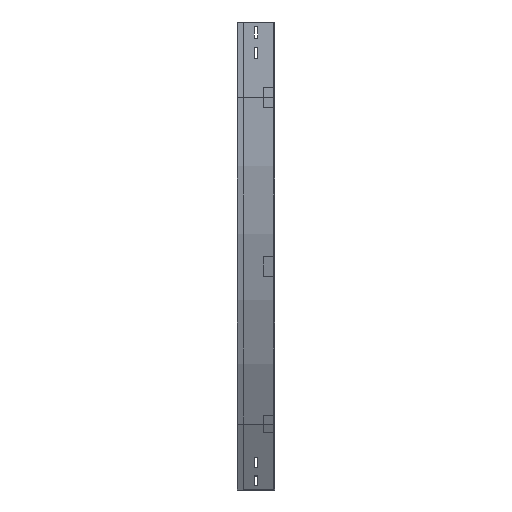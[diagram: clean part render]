
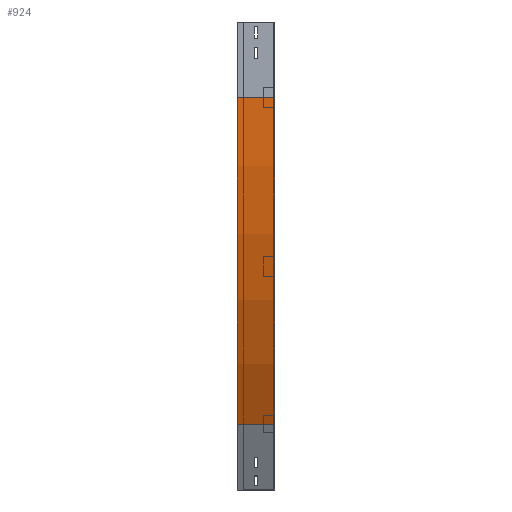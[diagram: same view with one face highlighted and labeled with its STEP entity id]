
A CAD part, left-side view. The second image highlights one B-rep face of the part: STEP entity #924.
In plain terms, the highlighted cylindrical face has radius 1300 mm (diameter 2600 mm), a partial arc.
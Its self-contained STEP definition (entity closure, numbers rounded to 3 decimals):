
#180 = ORIENTED_EDGE ( 'NONE', *, *, #2708, .T. ) ;
#251 = EDGE_CURVE ( 'NONE', #1932, #1748, #3763, .T. ) ;
#252 = FACE_OUTER_BOUND ( 'NONE', #1153, .T. ) ;
#330 = EDGE_CURVE ( 'NONE', #3293, #3305, #1732, .T. ) ;
#470 = VECTOR ( 'NONE', #2242, 1000. ) ;
#537 = CARTESIAN_POINT ( 'NONE',  ( 0., 75., -150. ) ) ;
#644 = CARTESIAN_POINT ( 'NONE',  ( 174.167, 0., -800. ) ) ;
#924 = ADVANCED_FACE ( 'NONE', ( #252 ), #1482, .T. ) ;
#1061 = CARTESIAN_POINT ( 'NONE',  ( 0., 0., -150. ) ) ;
#1114 = CARTESIAN_POINT ( 'NONE',  ( 1300., 0., -150. ) ) ;
#1153 = EDGE_LOOP ( 'NONE', ( #1860, #2943, #180, #3268 ) ) ;
#1436 = DIRECTION ( 'NONE',  ( 0., 0., -1. ) ) ;
#1449 = DIRECTION ( 'NONE',  ( 0., -1., 0. ) ) ;
#1469 = AXIS2_PLACEMENT_3D ( 'NONE', #1114, #3540, #1436 ) ;
#1482 = CYLINDRICAL_SURFACE ( 'NONE', #1469, 1300. ) ;
#1485 = CARTESIAN_POINT ( 'NONE',  ( 174.167, 0., -800. ) ) ;
#1732 = LINE ( 'NONE', #1485, #2709 ) ;
#1748 = VERTEX_POINT ( 'NONE', #2984 ) ;
#1860 = ORIENTED_EDGE ( 'NONE', *, *, #2869, .F. ) ;
#1874 = DIRECTION ( 'NONE',  ( -1., 0., 0. ) ) ;
#1932 = VERTEX_POINT ( 'NONE', #537 ) ;
#2001 = AXIS2_PLACEMENT_3D ( 'NONE', #2944, #1449, #2643 ) ;
#2099 = CARTESIAN_POINT ( 'NONE',  ( 174.167, 75., -800. ) ) ;
#2133 = AXIS2_PLACEMENT_3D ( 'NONE', #3355, #3068, #1874 ) ;
#2242 = DIRECTION ( 'NONE',  ( 0., -1., 0. ) ) ;
#2372 = DIRECTION ( 'NONE',  ( 0., -1., 0. ) ) ;
#2643 = DIRECTION ( 'NONE',  ( -1., 0., 0. ) ) ;
#2708 = EDGE_CURVE ( 'NONE', #1932, #3293, #3630, .T. ) ;
#2709 = VECTOR ( 'NONE', #2372, 1000. ) ;
#2869 = EDGE_CURVE ( 'NONE', #1748, #3305, #3695, .T. ) ;
#2943 = ORIENTED_EDGE ( 'NONE', *, *, #251, .F. ) ;
#2944 = CARTESIAN_POINT ( 'NONE',  ( 1300., 0., -150. ) ) ;
#2984 = CARTESIAN_POINT ( 'NONE',  ( 0., 0., -150. ) ) ;
#3068 = DIRECTION ( 'NONE',  ( 0., -1., 0. ) ) ;
#3268 = ORIENTED_EDGE ( 'NONE', *, *, #330, .T. ) ;
#3293 = VERTEX_POINT ( 'NONE', #2099 ) ;
#3305 = VERTEX_POINT ( 'NONE', #644 ) ;
#3355 = CARTESIAN_POINT ( 'NONE',  ( 1300., 75., -150. ) ) ;
#3540 = DIRECTION ( 'NONE',  ( 0., -1., 0. ) ) ;
#3630 = CIRCLE ( 'NONE', #2133, 1300. ) ;
#3695 = CIRCLE ( 'NONE', #2001, 1300. ) ;
#3763 = LINE ( 'NONE', #1061, #470 ) ;
